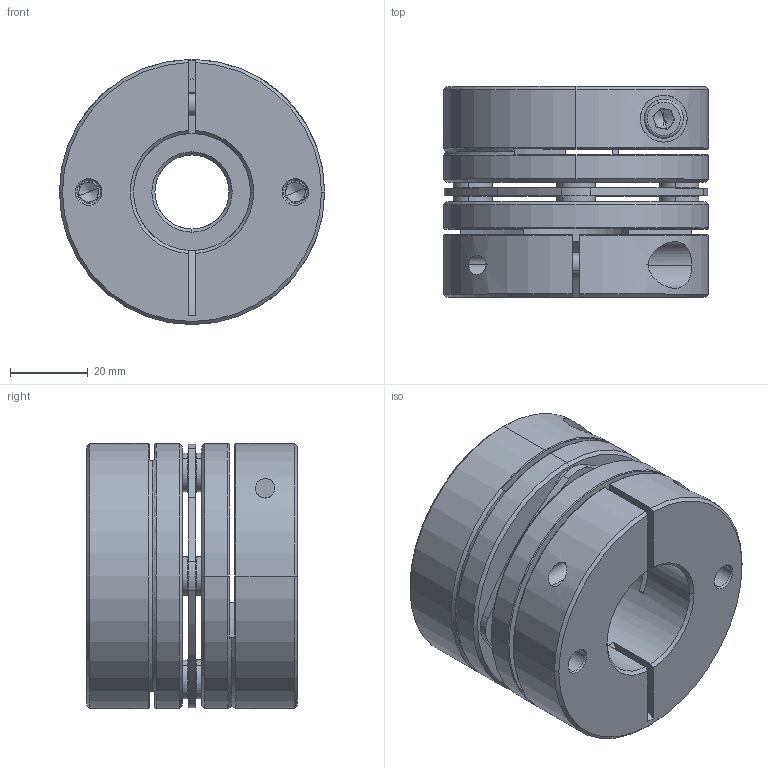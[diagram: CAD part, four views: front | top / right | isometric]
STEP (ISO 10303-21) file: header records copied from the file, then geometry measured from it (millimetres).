
FILE_DESCRIPTION (( 'STEP AP203' ), '1' );
FILE_NAME ('LD1-D68-19-30.STEP', '2021-10-26T07:56:16', ( '' ), ( '' ), 'SwSTEP 2.0', 'SolidWorks 2018', '' );
FILE_SCHEMA (( 'CONFIG_CONTROL_DESIGN' ));
Length unit declared in the file: millimetre
Products named in the file (2): 錨璃101^LD1-D68; LD1-D68-19-30
Assembly tree (1 placements, depth 2):
  LD1-D68-19-30
    錨璃101^LD1-D68
Bounding box: 68 x 54 x 68 mm (x, y, z)
Volume: 142748 mm3; surface area: 46050.5 mm2
Topology: 1 solids, 15 shells, 445 faces, 1059 edges, 650 vertices
Faces by surface type: cylinder 163, plane 138, cone 122, torus 22
Entity records: 13459 total; most frequent: CARTESIAN_POINT 2611, DIRECTION 2433, ORIENTED_EDGE 2086, EDGE_CURVE 1043, AXIS2_PLACEMENT_3D 988, VERTEX_POINT 650, CIRCLE 539, EDGE_LOOP 525
